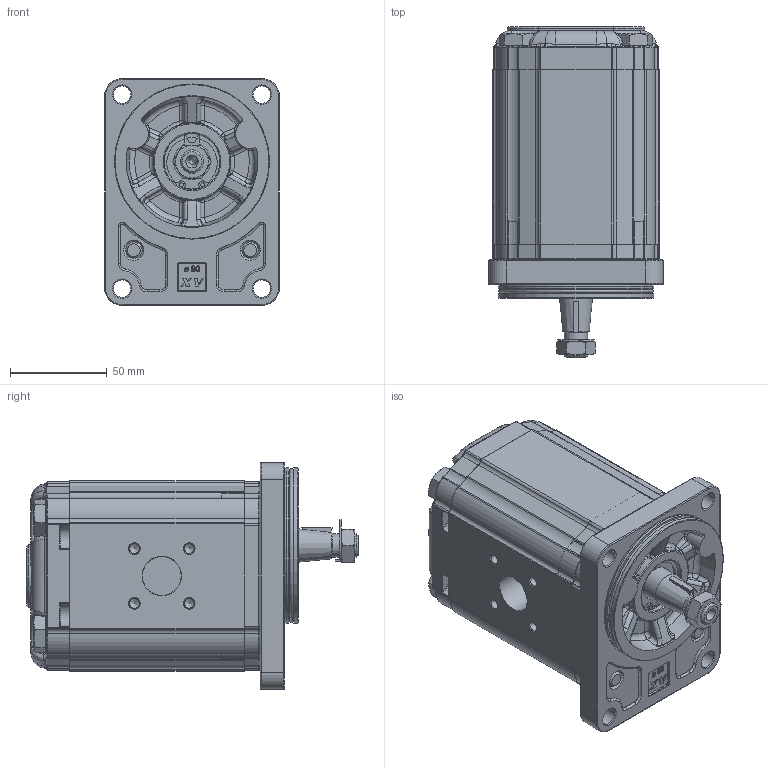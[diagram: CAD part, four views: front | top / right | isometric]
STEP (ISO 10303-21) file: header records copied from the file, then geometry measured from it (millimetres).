
FILE_DESCRIPTION( ( 'Unknown' ), '1' );
FILE_NAME( 'P:/montaggio_easy/output/STP/X2U5941FSSA.stp', 'Unknown', ( 'Unknown' ), ( 'Unknown' ), 'PSStep 14.0', 'Unknown', ' ' );
FILE_SCHEMA( ( 'AUTOMOTIVE_DESIGN { 1 0 10303 214 1 1 1 1 }' ) );
Length unit declared in the file: millimetre
Products named in the file (5): Assem1; X2U41; 2F; X2SSH90; XU217-A
Bounding box: 90 x 171.15 x 117 mm (x, y, z)
Surface area: 254694.9 mm2
Topology: 8 solids, 10 shells, 3648 faces, 9348 edges, 5930 vertices
Faces by surface type: plane 1658, cylinder 886, extrusion 354, torus 310, bspline 250, cone 166, sphere 24
Full cylindrical faces by diameter (mm): 2 x4, 5 x16, 9 x8, 10.5 x8, 12 x4, 12.5 x2, 16 x8, 17.42 x2, 18 x2, 20 x4, 20.595 x2, 23.332 x2, 25.834 x2, 28.5 x2, 28.56 x2, 28.57 x2, 28.8 x2, 30.5 x2, 40 x2, 77.2 x4, 80 x4
Entity records: 79776 total; most frequent: CARTESIAN_POINT 22130, ORIENTED_EDGE 8984, DIRECTION 8579, EDGE_CURVE 4492, AXIS2_PLACEMENT_3D 2945, VERTEX_POINT 2919, VECTOR 2689, LINE 2512
